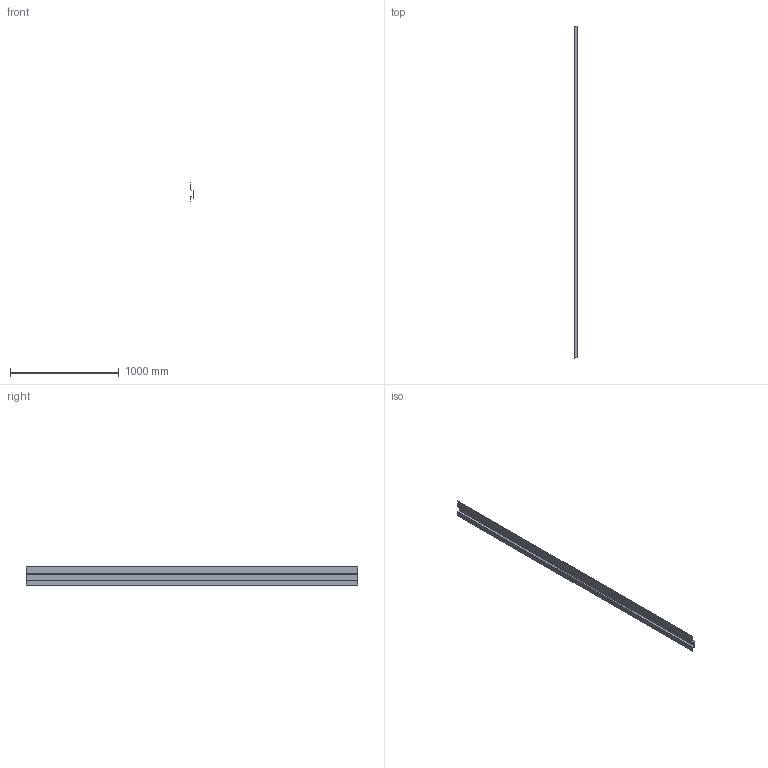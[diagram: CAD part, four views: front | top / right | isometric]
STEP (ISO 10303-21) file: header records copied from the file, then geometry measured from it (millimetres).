
FILE_DESCRIPTION(/* description */ (''),/* implementation_level */ '2;1');
FILE_NAME(/* name */ 'C:\Users\Utilisateur\Mac Metal\Site de communication - Documents\Ingénierie\Développement de produits\Board and Batten\Dessins\Moulures\M13H\Moulure de transition horizontale.stp',/* time_stamp */ '2022-06-29T15:02:08-04:00',/* author */ ('Utilisateur'),/* organization */ (''),/* preprocessor_version */ 'ST-DEVELOPER v18.1',/* originating_system */ 'Autodesk Inventor 2021',/* authorisation */ '');
FILE_SCHEMA (('AUTOMOTIVE_DESIGN { 1 0 10303 214 3 1 1 }'));
Length unit declared in the file: inch
Products named in the file (1): Moulure de transition horizontale
Bounding box: 25.91 x 3048 x 167.19 mm (x, y, z)
Volume: 428863.9 mm3; surface area: 1678827.1 mm2
Topology: 2 solids, 2 shells, 32 faces, 84 edges, 56 vertices
Faces by surface type: plane 22, cylinder 10
Entity records: 1030 total; most frequent: CARTESIAN_POINT 173, DIRECTION 170, ORIENTED_EDGE 168, EDGE_CURVE 84, LINE 64, VECTOR 64, VERTEX_POINT 56, AXIS2_PLACEMENT_3D 53
